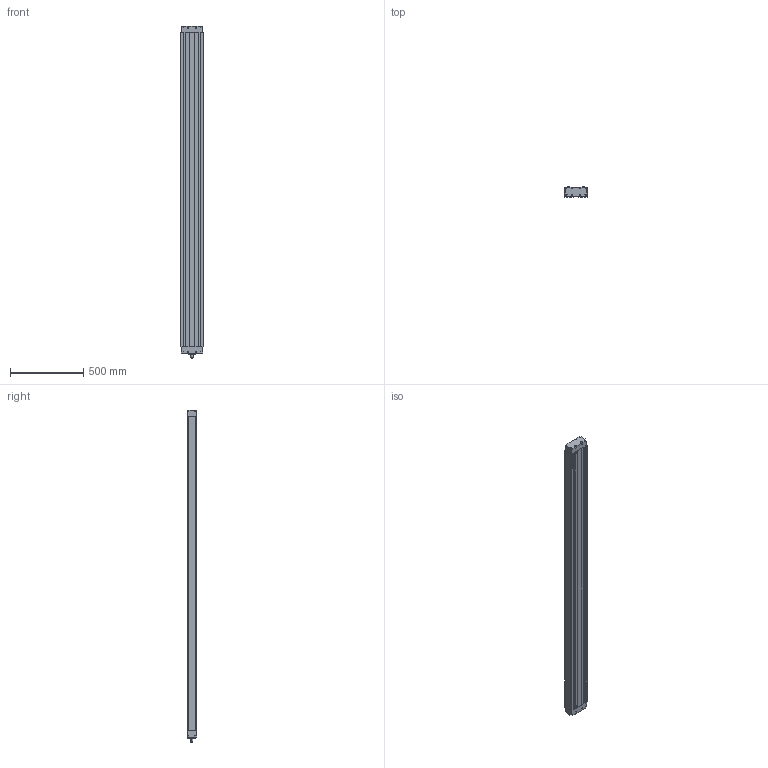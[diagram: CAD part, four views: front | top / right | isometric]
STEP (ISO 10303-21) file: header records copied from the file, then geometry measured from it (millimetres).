
FILE_DESCRIPTION (( 'STEP AP203' ), '1' );
FILE_NAME ('MSY150B-2000-LL2010-P7.STEP', '2013-11-02T03:48:09', ( '微软用户' ), ( '微软中国' ), 'SwSTEP 2.0', 'SolidWorks 2010', '' );
FILE_SCHEMA (( 'CONFIG_CONTROL_DESIGN' ));
Length unit declared in the file: millimetre
Products named in the file (1): MSY150B-2000-LL2010-P7
Bounding box: 150 x 67 x 2261 mm (x, y, z)
Volume: 17142557 mm3; surface area: 2095316.9 mm2
Topology: 1 solids, 1 shells, 309 faces, 837 edges, 538 vertices
Faces by surface type: plane 236, cylinder 61, cone 12
Entity records: 9622 total; most frequent: CARTESIAN_POINT 1677, ORIENTED_EDGE 1658, DIRECTION 1575, EDGE_CURVE 829, VECTOR 703, LINE 703, VERTEX_POINT 538, AXIS2_PLACEMENT_3D 436
